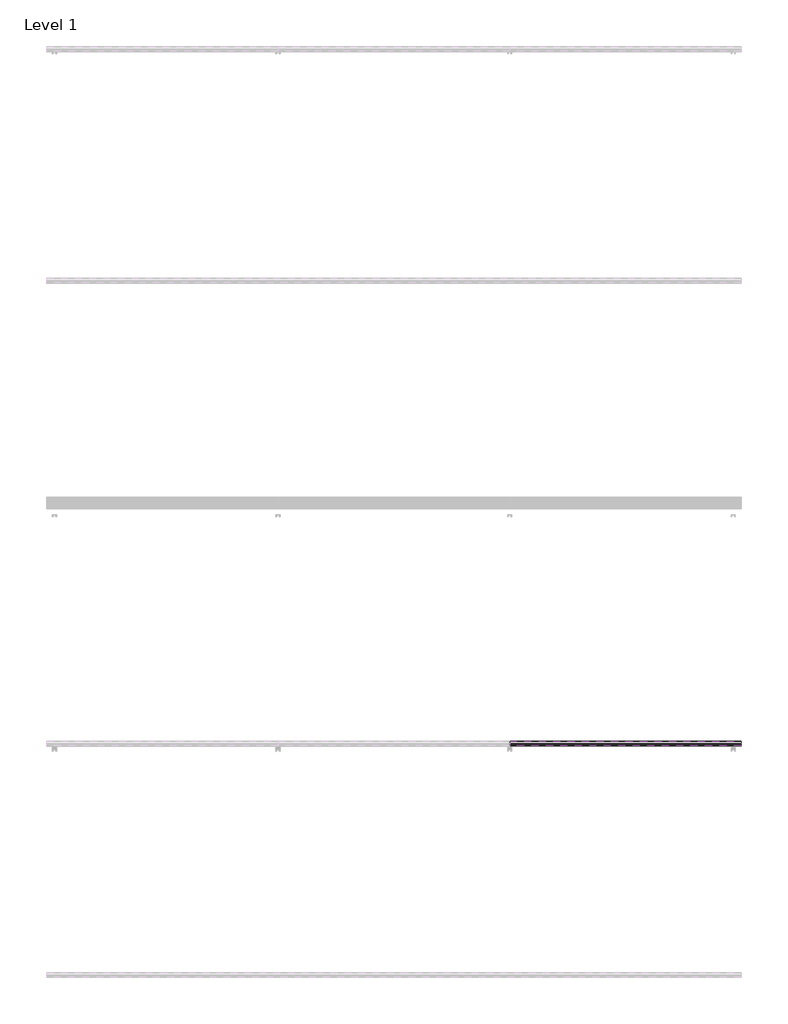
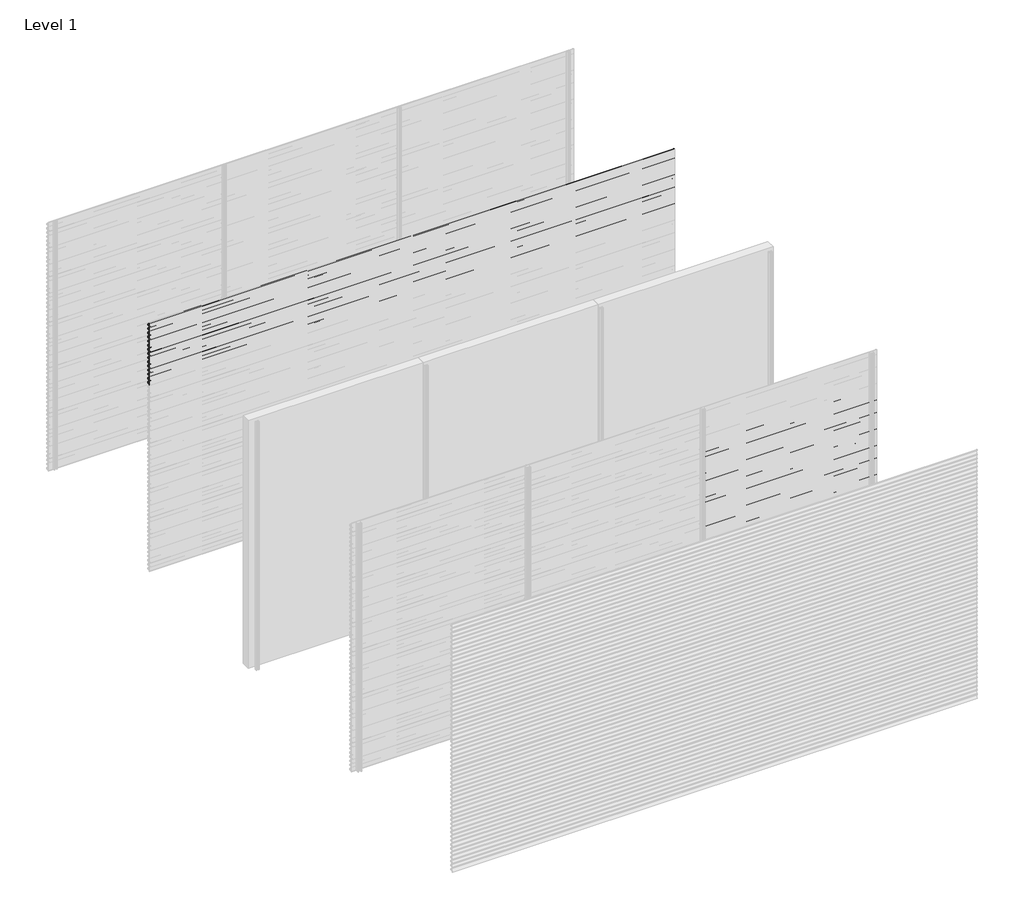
# One storey, part 31 of 38: 66 proxies.
"""IFC4 building model written with IfcOpenShell, lengths in millimetres."""

from ifc_helpers import new_model, si_unit, frame, origin, place, context, project, spatial, polyline, outline, extrude, element, save

model = new_model("IFC4")

# Units and contexts
model_context = context("Model", 3, world=origin())
ifc_project = project(units=[si_unit("LENGTHUNIT", "METRE", prefix="MILLI")], contexts=[model_context])

# Site, building, storey
site = spatial("IfcSite", under=ifc_project)
building = spatial("IfcBuilding", under=site)
storey = spatial("IfcBuildingStorey", under=building, Name="Level 1", Elevation=0.0)

# Proxies
placement = place(None, origin())
element("IfcBuildingElementProxy", 1, Name="Wall Sweeps", at=placement, inside=storey, context=model_context, shape_type="SweptSolid", body=[
    extrude(outline(polyline([(-7996.75, 3000.0), (-7996.75, 2989.19656), (-7974.6057113, 2976.4115489), (-7957.0, 2959.0472005), (-7957.0, 2944.0472005), (-7958.3, 2945.0268207), (-7958.3, 2958.5034593), (-7969.4914725, 2969.541504), (-7994.2797376, 2940.0), (-7995.9767671, 2940.0), (-7970.4200307, 2970.4573323), (-7975.3999793, 2975.3690091), (-7998.0, 2988.4171371), (-7998.0, 3000.0), (-7996.75, 3000.0)])), frame((0.0, 0.0, 0.0), z_axis=(1.0, 0.0, 0.0), x_axis=(0.0, 1.0, 0.0)), (0.0, 0.0, 1.0), 6000.0),
])
element("IfcBuildingElementProxy", 2, Name="Wall Sweeps", at=placement, inside=storey, context=model_context, shape_type="SweptSolid", body=[
    extrude(outline(polyline([(-7996.75, 2950.0), (-7996.75, 2939.19656), (-7974.6057113, 2926.4115489), (-7957.0, 2909.0472005), (-7957.0, 2894.0472005), (-7958.3, 2895.0268207), (-7958.3, 2908.5034593), (-7969.4914725, 2919.541504), (-7994.2797376, 2890.0), (-7995.9767671, 2890.0), (-7970.4200307, 2920.4573323), (-7975.3999793, 2925.3690091), (-7998.0, 2938.4171371), (-7998.0, 2950.0), (-7996.75, 2950.0)])), frame((0.0, 0.0, 0.0), z_axis=(1.0, 0.0, 0.0), x_axis=(0.0, 1.0, 0.0)), (0.0, 0.0, 1.0), 6000.0),
])
element("IfcBuildingElementProxy", 3, Name="Wall Sweeps", at=placement, inside=storey, context=model_context, shape_type="SweptSolid", body=[
    extrude(outline(polyline([(-7996.75, 2900.0), (-7996.75, 2889.19656), (-7974.6057113, 2876.4115489), (-7957.0, 2859.0472005), (-7957.0, 2844.0472005), (-7958.3, 2845.0268207), (-7958.3, 2858.5034593), (-7969.4914725, 2869.541504), (-7994.2797376, 2840.0), (-7995.9767671, 2840.0), (-7970.4200307, 2870.4573323), (-7975.3999793, 2875.3690091), (-7998.0, 2888.4171371), (-7998.0, 2900.0), (-7996.75, 2900.0)])), frame((0.0, 0.0, 0.0), z_axis=(1.0, 0.0, 0.0), x_axis=(0.0, 1.0, 0.0)), (0.0, 0.0, 1.0), 6000.0),
])
element("IfcBuildingElementProxy", 4, Name="Wall Sweeps", at=placement, inside=storey, context=model_context, shape_type="SweptSolid", body=[
    extrude(outline(polyline([(-7996.75, 2850.0), (-7996.75, 2839.19656), (-7974.6057113, 2826.4115489), (-7957.0, 2809.0472005), (-7957.0, 2794.0472005), (-7958.3, 2795.0268207), (-7958.3, 2808.5034593), (-7969.4914725, 2819.541504), (-7994.2797376, 2790.0), (-7995.9767671, 2790.0), (-7970.4200307, 2820.4573323), (-7975.3999793, 2825.3690091), (-7998.0, 2838.4171371), (-7998.0, 2850.0), (-7996.75, 2850.0)])), frame((0.0, 0.0, 0.0), z_axis=(1.0, 0.0, 0.0), x_axis=(0.0, 1.0, 0.0)), (0.0, 0.0, 1.0), 6000.0),
])
element("IfcBuildingElementProxy", 5, Name="Wall Sweeps", at=placement, inside=storey, context=model_context, shape_type="SweptSolid", body=[
    extrude(outline(polyline([(-7996.75, 2800.0), (-7996.75, 2789.19656), (-7974.6057113, 2776.4115489), (-7957.0, 2759.0472005), (-7957.0, 2744.0472005), (-7958.3, 2745.0268207), (-7958.3, 2758.5034593), (-7969.4914725, 2769.541504), (-7994.2797376, 2740.0), (-7995.9767671, 2740.0), (-7970.4200307, 2770.4573323), (-7975.3999793, 2775.3690091), (-7998.0, 2788.4171371), (-7998.0, 2800.0), (-7996.75, 2800.0)])), frame((0.0, 0.0, 0.0), z_axis=(1.0, 0.0, 0.0), x_axis=(0.0, 1.0, 0.0)), (0.0, 0.0, 1.0), 6000.0),
])
element("IfcBuildingElementProxy", 6, Name="Wall Sweeps", at=placement, inside=storey, context=model_context, shape_type="SweptSolid", body=[
    extrude(outline(polyline([(-7996.75, 2750.0), (-7996.75, 2739.19656), (-7974.6057113, 2726.4115489), (-7957.0, 2709.0472005), (-7957.0, 2694.0472005), (-7958.3, 2695.0268207), (-7958.3, 2708.5034593), (-7969.4914725, 2719.541504), (-7994.2797376, 2690.0), (-7995.9767671, 2690.0), (-7970.4200307, 2720.4573323), (-7975.3999793, 2725.3690091), (-7998.0, 2738.4171371), (-7998.0, 2750.0), (-7996.75, 2750.0)])), frame((0.0, 0.0, 0.0), z_axis=(1.0, 0.0, 0.0), x_axis=(0.0, 1.0, 0.0)), (0.0, 0.0, 1.0), 6000.0),
])
element("IfcBuildingElementProxy", 7, Name="Wall Sweeps", at=placement, inside=storey, context=model_context, shape_type="SweptSolid", body=[
    extrude(outline(polyline([(-7996.75, 2700.0), (-7996.75, 2689.19656), (-7974.6057113, 2676.4115489), (-7957.0, 2659.0472005), (-7957.0, 2644.0472005), (-7958.3, 2645.0268207), (-7958.3, 2658.5034593), (-7969.4914725, 2669.541504), (-7994.2797376, 2640.0), (-7995.9767671, 2640.0), (-7970.4200307, 2670.4573323), (-7975.3999793, 2675.3690091), (-7998.0, 2688.4171371), (-7998.0, 2700.0), (-7996.75, 2700.0)])), frame((0.0, 0.0, 0.0), z_axis=(1.0, 0.0, 0.0), x_axis=(0.0, 1.0, 0.0)), (0.0, 0.0, 1.0), 6000.0),
])
element("IfcBuildingElementProxy", 8, Name="Wall Sweeps", at=placement, inside=storey, context=model_context, shape_type="SweptSolid", body=[
    extrude(outline(polyline([(-7996.75, 2650.0), (-7996.75, 2639.19656), (-7974.6057113, 2626.4115489), (-7957.0, 2609.0472005), (-7957.0, 2594.0472005), (-7958.3, 2595.0268207), (-7958.3, 2608.5034593), (-7969.4914725, 2619.541504), (-7994.2797376, 2590.0), (-7995.9767671, 2590.0), (-7970.4200307, 2620.4573323), (-7975.3999793, 2625.3690091), (-7998.0, 2638.4171371), (-7998.0, 2650.0), (-7996.75, 2650.0)])), frame((0.0, 0.0, 0.0), z_axis=(1.0, 0.0, 0.0), x_axis=(0.0, 1.0, 0.0)), (0.0, 0.0, 1.0), 6000.0),
])
element("IfcBuildingElementProxy", 9, Name="Wall Sweeps", at=placement, inside=storey, context=model_context, shape_type="SweptSolid", body=[
    extrude(outline(polyline([(-7996.75, 2600.0), (-7996.75, 2589.19656), (-7974.6057113, 2576.4115489), (-7957.0, 2559.0472005), (-7957.0, 2544.0472005), (-7958.3, 2545.0268207), (-7958.3, 2558.5034593), (-7969.4914725, 2569.541504), (-7994.2797376, 2540.0), (-7995.9767671, 2540.0), (-7970.4200307, 2570.4573323), (-7975.3999793, 2575.3690091), (-7998.0, 2588.4171371), (-7998.0, 2600.0), (-7996.75, 2600.0)])), frame((0.0, 0.0, 0.0), z_axis=(1.0, 0.0, 0.0), x_axis=(0.0, 1.0, 0.0)), (0.0, 0.0, 1.0), 6000.0),
])
element("IfcBuildingElementProxy", 10, Name="Wall Sweeps", at=placement, inside=storey, context=model_context, shape_type="SweptSolid", body=[
    extrude(outline(polyline([(-7996.75, 2550.0), (-7996.75, 2539.19656), (-7974.6057113, 2526.4115489), (-7957.0, 2509.0472005), (-7957.0, 2494.0472005), (-7958.3, 2495.0268207), (-7958.3, 2508.5034593), (-7969.4914725, 2519.541504), (-7994.2797376, 2490.0), (-7995.9767671, 2490.0), (-7970.4200307, 2520.4573323), (-7975.3999793, 2525.3690091), (-7998.0, 2538.4171371), (-7998.0, 2550.0), (-7996.75, 2550.0)])), frame((0.0, 0.0, 0.0), z_axis=(1.0, 0.0, 0.0), x_axis=(0.0, 1.0, 0.0)), (0.0, 0.0, 1.0), 6000.0),
])
element("IfcBuildingElementProxy", 11, Name="Wall Sweeps", at=placement, inside=storey, context=model_context, shape_type="SweptSolid", body=[
    extrude(outline(polyline([(-7996.75, 2500.0), (-7996.75, 2489.19656), (-7974.6057113, 2476.4115489), (-7957.0, 2459.0472005), (-7957.0, 2444.0472005), (-7958.3, 2445.0268207), (-7958.3, 2458.5034593), (-7969.4914725, 2469.541504), (-7994.2797376, 2440.0), (-7995.9767671, 2440.0), (-7970.4200307, 2470.4573323), (-7975.3999793, 2475.3690091), (-7998.0, 2488.4171371), (-7998.0, 2500.0), (-7996.75, 2500.0)])), frame((0.0, 0.0, 0.0), z_axis=(1.0, 0.0, 0.0), x_axis=(0.0, 1.0, 0.0)), (0.0, 0.0, 1.0), 6000.0),
])
element("IfcBuildingElementProxy", 12, Name="Wall Sweeps", at=placement, inside=storey, context=model_context, shape_type="SweptSolid", body=[
    extrude(outline(polyline([(-7996.75, 2450.0), (-7996.75, 2439.19656), (-7974.6057113, 2426.4115489), (-7957.0, 2409.0472005), (-7957.0, 2394.0472005), (-7958.3, 2395.0268207), (-7958.3, 2408.5034593), (-7969.4914725, 2419.541504), (-7994.2797376, 2390.0), (-7995.9767671, 2390.0), (-7970.4200307, 2420.4573323), (-7975.3999793, 2425.3690091), (-7998.0, 2438.4171371), (-7998.0, 2450.0), (-7996.75, 2450.0)])), frame((0.0, 0.0, 0.0), z_axis=(1.0, 0.0, 0.0), x_axis=(0.0, 1.0, 0.0)), (0.0, 0.0, 1.0), 6000.0),
])
element("IfcBuildingElementProxy", 13, Name="Wall Sweeps", at=placement, inside=storey, context=model_context, shape_type="SweptSolid", body=[
    extrude(outline(polyline([(-7996.75, 2400.0), (-7996.75, 2389.19656), (-7974.6057113, 2376.4115489), (-7957.0, 2359.0472005), (-7957.0, 2344.0472005), (-7958.3, 2345.0268207), (-7958.3, 2358.5034593), (-7969.4914725, 2369.541504), (-7994.2797376, 2340.0), (-7995.9767671, 2340.0), (-7970.4200307, 2370.4573323), (-7975.3999793, 2375.3690091), (-7998.0, 2388.4171371), (-7998.0, 2400.0), (-7996.75, 2400.0)])), frame((0.0, 0.0, 0.0), z_axis=(1.0, 0.0, 0.0), x_axis=(0.0, 1.0, 0.0)), (0.0, 0.0, 1.0), 6000.0),
])
element("IfcBuildingElementProxy", 14, Name="Wall Sweeps", at=placement, inside=storey, context=model_context, shape_type="SweptSolid", body=[
    extrude(outline(polyline([(-7996.75, 2350.0), (-7996.75, 2339.19656), (-7974.6057113, 2326.4115489), (-7957.0, 2309.0472005), (-7957.0, 2294.0472005), (-7958.3, 2295.0268207), (-7958.3, 2308.5034593), (-7969.4914725, 2319.541504), (-7994.2797376, 2290.0), (-7995.9767671, 2290.0), (-7970.4200307, 2320.4573323), (-7975.3999793, 2325.3690091), (-7998.0, 2338.4171371), (-7998.0, 2350.0), (-7996.75, 2350.0)])), frame((0.0, 0.0, 0.0), z_axis=(1.0, 0.0, 0.0), x_axis=(0.0, 1.0, 0.0)), (0.0, 0.0, 1.0), 6000.0),
])
element("IfcBuildingElementProxy", 15, Name="Wall Sweeps", at=placement, inside=storey, context=model_context, shape_type="SweptSolid", body=[
    extrude(outline(polyline([(-7996.75, 2300.0), (-7996.75, 2289.19656), (-7974.6057113, 2276.4115489), (-7957.0, 2259.0472005), (-7957.0, 2244.0472005), (-7958.3, 2245.0268207), (-7958.3, 2258.5034593), (-7969.4914725, 2269.541504), (-7994.2797376, 2240.0), (-7995.9767671, 2240.0), (-7970.4200307, 2270.4573323), (-7975.3999793, 2275.3690091), (-7998.0, 2288.4171371), (-7998.0, 2300.0), (-7996.75, 2300.0)])), frame((0.0, 0.0, 0.0), z_axis=(1.0, 0.0, 0.0), x_axis=(0.0, 1.0, 0.0)), (0.0, 0.0, 1.0), 6000.0),
])
element("IfcBuildingElementProxy", 16, Name="Wall Sweeps", at=placement, inside=storey, context=model_context, shape_type="SweptSolid", body=[
    extrude(outline(polyline([(-11996.75, 2550.0), (-11996.75, 2539.19656), (-11974.6057113, 2526.4115489), (-11957.0, 2509.0472005), (-11957.0, 2494.0472005), (-11958.3, 2495.0268207), (-11958.3, 2508.5034593), (-11969.4914725, 2519.541504), (-11994.2797376, 2490.0), (-11995.9767671, 2490.0), (-11970.4200307, 2520.4573323), (-11975.3999793, 2525.3690091), (-11998.0, 2538.4171371), (-11998.0, 2550.0), (-11996.75, 2550.0)])), frame((4000.0, 0.0, 0.0), z_axis=(1.0, 0.0, 0.0), x_axis=(0.0, 1.0, 0.0)), (0.0, 0.0, 1.0), 2000.0),
])
element("IfcBuildingElementProxy", 17, Name="Wall Sweeps", at=placement, inside=storey, context=model_context, shape_type="SweptSolid", body=[
    extrude(outline(polyline([(-11996.75, 2500.0), (-11996.75, 2489.19656), (-11974.6057113, 2476.4115489), (-11957.0, 2459.0472005), (-11957.0, 2444.0472005), (-11958.3, 2445.0268207), (-11958.3, 2458.5034593), (-11969.4914725, 2469.541504), (-11994.2797376, 2440.0), (-11995.9767671, 2440.0), (-11970.4200307, 2470.4573323), (-11975.3999793, 2475.3690091), (-11998.0, 2488.4171371), (-11998.0, 2500.0), (-11996.75, 2500.0)])), frame((4000.0, 0.0, 0.0), z_axis=(1.0, 0.0, 0.0), x_axis=(0.0, 1.0, 0.0)), (0.0, 0.0, 1.0), 2000.0),
])
element("IfcBuildingElementProxy", 18, Name="Wall Sweeps", at=placement, inside=storey, context=model_context, shape_type="SweptSolid", body=[
    extrude(outline(polyline([(-11996.75, 2450.0), (-11996.75, 2439.19656), (-11974.6057113, 2426.4115489), (-11957.0, 2409.0472005), (-11957.0, 2394.0472005), (-11958.3, 2395.0268207), (-11958.3, 2408.5034593), (-11969.4914725, 2419.541504), (-11994.2797376, 2390.0), (-11995.9767671, 2390.0), (-11970.4200307, 2420.4573323), (-11975.3999793, 2425.3690091), (-11998.0, 2438.4171371), (-11998.0, 2450.0), (-11996.75, 2450.0)])), frame((4000.0, 0.0, 0.0), z_axis=(1.0, 0.0, 0.0), x_axis=(0.0, 1.0, 0.0)), (0.0, 0.0, 1.0), 2000.0),
])
element("IfcBuildingElementProxy", 19, Name="Wall Sweeps", at=placement, inside=storey, context=model_context, shape_type="SweptSolid", body=[
    extrude(outline(polyline([(-11996.75, 2400.0), (-11996.75, 2389.19656), (-11974.6057113, 2376.4115489), (-11957.0, 2359.0472005), (-11957.0, 2344.0472005), (-11958.3, 2345.0268207), (-11958.3, 2358.5034593), (-11969.4914725, 2369.541504), (-11994.2797376, 2340.0), (-11995.9767671, 2340.0), (-11970.4200307, 2370.4573323), (-11975.3999793, 2375.3690091), (-11998.0, 2388.4171371), (-11998.0, 2400.0), (-11996.75, 2400.0)])), frame((4000.0, 0.0, 0.0), z_axis=(1.0, 0.0, 0.0), x_axis=(0.0, 1.0, 0.0)), (0.0, 0.0, 1.0), 2000.0),
])
element("IfcBuildingElementProxy", 20, Name="Wall Sweeps", at=placement, inside=storey, context=model_context, shape_type="SweptSolid", body=[
    extrude(outline(polyline([(-11996.75, 2350.0), (-11996.75, 2339.19656), (-11974.6057113, 2326.4115489), (-11957.0, 2309.0472005), (-11957.0, 2294.0472005), (-11958.3, 2295.0268207), (-11958.3, 2308.5034593), (-11969.4914725, 2319.541504), (-11994.2797376, 2290.0), (-11995.9767671, 2290.0), (-11970.4200307, 2320.4573323), (-11975.3999793, 2325.3690091), (-11998.0, 2338.4171371), (-11998.0, 2350.0), (-11996.75, 2350.0)])), frame((4000.0, 0.0, 0.0), z_axis=(1.0, 0.0, 0.0), x_axis=(0.0, 1.0, 0.0)), (0.0, 0.0, 1.0), 2000.0),
])
element("IfcBuildingElementProxy", 21, Name="Wall Sweeps", at=placement, inside=storey, context=model_context, shape_type="SweptSolid", body=[
    extrude(outline(polyline([(-11996.75, 2300.0), (-11996.75, 2289.19656), (-11974.6057113, 2276.4115489), (-11957.0, 2259.0472005), (-11957.0, 2244.0472005), (-11958.3, 2245.0268207), (-11958.3, 2258.5034593), (-11969.4914725, 2269.541504), (-11994.2797376, 2240.0), (-11995.9767671, 2240.0), (-11970.4200307, 2270.4573323), (-11975.3999793, 2275.3690091), (-11998.0, 2288.4171371), (-11998.0, 2300.0), (-11996.75, 2300.0)])), frame((4000.0, 0.0, 0.0), z_axis=(1.0, 0.0, 0.0), x_axis=(0.0, 1.0, 0.0)), (0.0, 0.0, 1.0), 2000.0),
])
element("IfcBuildingElementProxy", 22, Name="Wall Sweeps", at=placement, inside=storey, context=model_context, shape_type="SweptSolid", body=[
    extrude(outline(polyline([(-11996.75, 2250.0), (-11996.75, 2239.19656), (-11974.6057113, 2226.4115489), (-11957.0, 2209.0472005), (-11957.0, 2194.0472005), (-11958.3, 2195.0268207), (-11958.3, 2208.5034593), (-11969.4914725, 2219.541504), (-11994.2797376, 2190.0), (-11995.9767671, 2190.0), (-11970.4200307, 2220.4573323), (-11975.3999793, 2225.3690091), (-11998.0, 2238.4171371), (-11998.0, 2250.0), (-11996.75, 2250.0)])), frame((4000.0, 0.0, 0.0), z_axis=(1.0, 0.0, 0.0), x_axis=(0.0, 1.0, 0.0)), (0.0, 0.0, 1.0), 2000.0),
])
element("IfcBuildingElementProxy", 23, Name="Wall Sweeps", at=placement, inside=storey, context=model_context, shape_type="SweptSolid", body=[
    extrude(outline(polyline([(-11996.75, 2200.0), (-11996.75, 2189.19656), (-11974.6057113, 2176.4115489), (-11957.0, 2159.0472005), (-11957.0, 2144.0472005), (-11958.3, 2145.0268207), (-11958.3, 2158.5034593), (-11969.4914725, 2169.541504), (-11994.2797376, 2140.0), (-11995.9767671, 2140.0), (-11970.4200307, 2170.4573323), (-11975.3999793, 2175.3690091), (-11998.0, 2188.4171371), (-11998.0, 2200.0), (-11996.75, 2200.0)])), frame((4000.0, 0.0, 0.0), z_axis=(1.0, 0.0, 0.0), x_axis=(0.0, 1.0, 0.0)), (0.0, 0.0, 1.0), 2000.0),
])
element("IfcBuildingElementProxy", 24, Name="Wall Sweeps", at=placement, inside=storey, context=model_context, shape_type="SweptSolid", body=[
    extrude(outline(polyline([(-11996.75, 2150.0), (-11996.75, 2139.19656), (-11974.6057113, 2126.4115489), (-11957.0, 2109.0472005), (-11957.0, 2094.0472005), (-11958.3, 2095.0268207), (-11958.3, 2108.5034593), (-11969.4914725, 2119.541504), (-11994.2797376, 2090.0), (-11995.9767671, 2090.0), (-11970.4200307, 2120.4573323), (-11975.3999793, 2125.3690091), (-11998.0, 2138.4171371), (-11998.0, 2150.0), (-11996.75, 2150.0)])), frame((4000.0, 0.0, 0.0), z_axis=(1.0, 0.0, 0.0), x_axis=(0.0, 1.0, 0.0)), (0.0, 0.0, 1.0), 2000.0),
])
element("IfcBuildingElementProxy", 25, Name="Wall Sweeps", at=placement, inside=storey, context=model_context, shape_type="SweptSolid", body=[
    extrude(outline(polyline([(-11996.75, 2100.0), (-11996.75, 2089.19656), (-11974.6057113, 2076.4115489), (-11957.0, 2059.0472005), (-11957.0, 2044.0472005), (-11958.3, 2045.0268207), (-11958.3, 2058.5034593), (-11969.4914725, 2069.541504), (-11994.2797376, 2040.0), (-11995.9767671, 2040.0), (-11970.4200307, 2070.4573323), (-11975.3999793, 2075.3690091), (-11998.0, 2088.4171371), (-11998.0, 2100.0), (-11996.75, 2100.0)])), frame((4000.0, 0.0, 0.0), z_axis=(1.0, 0.0, 0.0), x_axis=(0.0, 1.0, 0.0)), (0.0, 0.0, 1.0), 2000.0),
])
element("IfcBuildingElementProxy", 26, Name="Wall Sweeps", at=placement, inside=storey, context=model_context, shape_type="SweptSolid", body=[
    extrude(outline(polyline([(-11996.75, 2050.0), (-11996.75, 2039.19656), (-11974.6057113, 2026.4115489), (-11957.0, 2009.0472005), (-11957.0, 1994.0472005), (-11958.3, 1995.0268207), (-11958.3, 2008.5034593), (-11969.4914725, 2019.541504), (-11994.2797376, 1990.0), (-11995.9767671, 1990.0), (-11970.4200307, 2020.4573323), (-11975.3999793, 2025.3690091), (-11998.0, 2038.4171371), (-11998.0, 2050.0), (-11996.75, 2050.0)])), frame((4000.0, 0.0, 0.0), z_axis=(1.0, 0.0, 0.0), x_axis=(0.0, 1.0, 0.0)), (0.0, 0.0, 1.0), 2000.0),
])
element("IfcBuildingElementProxy", 27, Name="Wall Sweeps", at=placement, inside=storey, context=model_context, shape_type="SweptSolid", body=[
    extrude(outline(polyline([(-11996.75, 2000.0), (-11996.75, 1989.19656), (-11974.6057113, 1976.4115489), (-11957.0, 1959.0472005), (-11957.0, 1944.0472005), (-11958.3, 1945.0268207), (-11958.3, 1958.5034593), (-11969.4914725, 1969.541504), (-11994.2797376, 1940.0), (-11995.9767671, 1940.0), (-11970.4200307, 1970.4573323), (-11975.3999793, 1975.3690091), (-11998.0, 1988.4171371), (-11998.0, 2000.0), (-11996.75, 2000.0)])), frame((4000.0, 0.0, 0.0), z_axis=(1.0, 0.0, 0.0), x_axis=(0.0, 1.0, 0.0)), (0.0, 0.0, 1.0), 2000.0),
])
element("IfcBuildingElementProxy", 28, Name="Wall Sweeps", at=placement, inside=storey, context=model_context, shape_type="SweptSolid", body=[
    extrude(outline(polyline([(-11996.75, 1950.0), (-11996.75, 1939.19656), (-11974.6057113, 1926.4115489), (-11957.0, 1909.0472005), (-11957.0, 1894.0472005), (-11958.3, 1895.0268207), (-11958.3, 1908.5034593), (-11969.4914725, 1919.541504), (-11994.2797376, 1890.0), (-11995.9767671, 1890.0), (-11970.4200307, 1920.4573323), (-11975.3999793, 1925.3690091), (-11998.0, 1938.4171371), (-11998.0, 1950.0), (-11996.75, 1950.0)])), frame((4000.0, 0.0, 0.0), z_axis=(1.0, 0.0, 0.0), x_axis=(0.0, 1.0, 0.0)), (0.0, 0.0, 1.0), 2000.0),
])
element("IfcBuildingElementProxy", 29, Name="Wall Sweeps", at=placement, inside=storey, context=model_context, shape_type="SweptSolid", body=[
    extrude(outline(polyline([(-11996.75, 1900.0), (-11996.75, 1889.19656), (-11974.6057113, 1876.4115489), (-11957.0, 1859.0472005), (-11957.0, 1844.0472005), (-11958.3, 1845.0268207), (-11958.3, 1858.5034593), (-11969.4914725, 1869.541504), (-11994.2797376, 1840.0), (-11995.9767671, 1840.0), (-11970.4200307, 1870.4573323), (-11975.3999793, 1875.3690091), (-11998.0, 1888.4171371), (-11998.0, 1900.0), (-11996.75, 1900.0)])), frame((4000.0, 0.0, 0.0), z_axis=(1.0, 0.0, 0.0), x_axis=(0.0, 1.0, 0.0)), (0.0, 0.0, 1.0), 2000.0),
])
element("IfcBuildingElementProxy", 30, Name="Wall Sweeps", at=placement, inside=storey, context=model_context, shape_type="SweptSolid", body=[
    extrude(outline(polyline([(-11996.75, 1850.0), (-11996.75, 1839.19656), (-11974.6057113, 1826.4115489), (-11957.0, 1809.0472005), (-11957.0, 1794.0472005), (-11958.3, 1795.0268207), (-11958.3, 1808.5034593), (-11969.4914725, 1819.541504), (-11994.2797376, 1790.0), (-11995.9767671, 1790.0), (-11970.4200307, 1820.4573323), (-11975.3999793, 1825.3690091), (-11998.0, 1838.4171371), (-11998.0, 1850.0), (-11996.75, 1850.0)])), frame((4000.0, 0.0, 0.0), z_axis=(1.0, 0.0, 0.0), x_axis=(0.0, 1.0, 0.0)), (0.0, 0.0, 1.0), 2000.0),
])
element("IfcBuildingElementProxy", 31, Name="Wall Sweeps", at=placement, inside=storey, context=model_context, shape_type="SweptSolid", body=[
    extrude(outline(polyline([(-11996.75, 1800.0), (-11996.75, 1789.19656), (-11974.6057113, 1776.4115489), (-11957.0, 1759.0472005), (-11957.0, 1744.0472005), (-11958.3, 1745.0268207), (-11958.3, 1758.5034593), (-11969.4914725, 1769.541504), (-11994.2797376, 1740.0), (-11995.9767671, 1740.0), (-11970.4200307, 1770.4573323), (-11975.3999793, 1775.3690091), (-11998.0, 1788.4171371), (-11998.0, 1800.0), (-11996.75, 1800.0)])), frame((4000.0, 0.0, 0.0), z_axis=(1.0, 0.0, 0.0), x_axis=(0.0, 1.0, 0.0)), (0.0, 0.0, 1.0), 2000.0),
])
element("IfcBuildingElementProxy", 32, Name="Wall Sweeps", at=placement, inside=storey, context=model_context, shape_type="SweptSolid", body=[
    extrude(outline(polyline([(-11996.75, 1750.0), (-11996.75, 1739.19656), (-11974.6057113, 1726.4115489), (-11957.0, 1709.0472005), (-11957.0, 1694.0472005), (-11958.3, 1695.0268207), (-11958.3, 1708.5034593), (-11969.4914725, 1719.541504), (-11994.2797376, 1690.0), (-11995.9767671, 1690.0), (-11970.4200307, 1720.4573323), (-11975.3999793, 1725.3690091), (-11998.0, 1738.4171371), (-11998.0, 1750.0), (-11996.75, 1750.0)])), frame((4000.0, 0.0, 0.0), z_axis=(1.0, 0.0, 0.0), x_axis=(0.0, 1.0, 0.0)), (0.0, 0.0, 1.0), 2000.0),
])
element("IfcBuildingElementProxy", 33, Name="Wall Sweeps", at=placement, inside=storey, context=model_context, shape_type="SweptSolid", body=[
    extrude(outline(polyline([(-11996.75, 1700.0), (-11996.75, 1689.19656), (-11974.6057113, 1676.4115489), (-11957.0, 1659.0472005), (-11957.0, 1644.0472005), (-11958.3, 1645.0268207), (-11958.3, 1658.5034593), (-11969.4914725, 1669.541504), (-11994.2797376, 1640.0), (-11995.9767671, 1640.0), (-11970.4200307, 1670.4573323), (-11975.3999793, 1675.3690091), (-11998.0, 1688.4171371), (-11998.0, 1700.0), (-11996.75, 1700.0)])), frame((4000.0, 0.0, 0.0), z_axis=(1.0, 0.0, 0.0), x_axis=(0.0, 1.0, 0.0)), (0.0, 0.0, 1.0), 2000.0),
])
element("IfcBuildingElementProxy", 34, Name="Wall Sweeps", at=placement, inside=storey, context=model_context, shape_type="SweptSolid", body=[
    extrude(outline(polyline([(-11996.75, 1650.0), (-11996.75, 1639.19656), (-11974.6057113, 1626.4115489), (-11957.0, 1609.0472005), (-11957.0, 1594.0472005), (-11958.3, 1595.0268207), (-11958.3, 1608.5034593), (-11969.4914725, 1619.541504), (-11994.2797376, 1590.0), (-11995.9767671, 1590.0), (-11970.4200307, 1620.4573323), (-11975.3999793, 1625.3690091), (-11998.0, 1638.4171371), (-11998.0, 1650.0), (-11996.75, 1650.0)])), frame((4000.0, 0.0, 0.0), z_axis=(1.0, 0.0, 0.0), x_axis=(0.0, 1.0, 0.0)), (0.0, 0.0, 1.0), 2000.0),
])
element("IfcBuildingElementProxy", 35, Name="Wall Sweeps", at=placement, inside=storey, context=model_context, shape_type="SweptSolid", body=[
    extrude(outline(polyline([(-11996.75, 1600.0), (-11996.75, 1589.19656), (-11974.6057113, 1576.4115489), (-11957.0, 1559.0472005), (-11957.0, 1544.0472005), (-11958.3, 1545.0268207), (-11958.3, 1558.5034593), (-11969.4914725, 1569.541504), (-11994.2797376, 1540.0), (-11995.9767671, 1540.0), (-11970.4200307, 1570.4573323), (-11975.3999793, 1575.3690091), (-11998.0, 1588.4171371), (-11998.0, 1600.0), (-11996.75, 1600.0)])), frame((4000.0, 0.0, 0.0), z_axis=(1.0, 0.0, 0.0), x_axis=(0.0, 1.0, 0.0)), (0.0, 0.0, 1.0), 2000.0),
])
element("IfcBuildingElementProxy", 36, Name="Wall Sweeps", at=placement, inside=storey, context=model_context, shape_type="SweptSolid", body=[
    extrude(outline(polyline([(-11996.75, 1550.0), (-11996.75, 1539.19656), (-11974.6057113, 1526.4115489), (-11957.0, 1509.0472005), (-11957.0, 1494.0472005), (-11958.3, 1495.0268207), (-11958.3, 1508.5034593), (-11969.4914725, 1519.541504), (-11994.2797376, 1490.0), (-11995.9767671, 1490.0), (-11970.4200307, 1520.4573323), (-11975.3999793, 1525.3690091), (-11998.0, 1538.4171371), (-11998.0, 1550.0), (-11996.75, 1550.0)])), frame((4000.0, 0.0, 0.0), z_axis=(1.0, 0.0, 0.0), x_axis=(0.0, 1.0, 0.0)), (0.0, 0.0, 1.0), 2000.0),
])
element("IfcBuildingElementProxy", 37, Name="Wall Sweeps", at=placement, inside=storey, context=model_context, shape_type="SweptSolid", body=[
    extrude(outline(polyline([(-11996.75, 1500.0), (-11996.75, 1489.19656), (-11974.6057113, 1476.4115489), (-11957.0, 1459.0472005), (-11957.0, 1444.0472005), (-11958.3, 1445.0268207), (-11958.3, 1458.5034593), (-11969.4914725, 1469.541504), (-11994.2797376, 1440.0), (-11995.9767671, 1440.0), (-11970.4200307, 1470.4573323), (-11975.3999793, 1475.3690091), (-11998.0, 1488.4171371), (-11998.0, 1500.0), (-11996.75, 1500.0)])), frame((4000.0, 0.0, 0.0), z_axis=(1.0, 0.0, 0.0), x_axis=(0.0, 1.0, 0.0)), (0.0, 0.0, 1.0), 2000.0),
])
element("IfcBuildingElementProxy", 38, Name="Wall Sweeps", at=placement, inside=storey, context=model_context, shape_type="SweptSolid", body=[
    extrude(outline(polyline([(-11996.75, 1450.0), (-11996.75, 1439.19656), (-11974.6057113, 1426.4115489), (-11957.0, 1409.0472005), (-11957.0, 1394.0472005), (-11958.3, 1395.0268207), (-11958.3, 1408.5034593), (-11969.4914725, 1419.541504), (-11994.2797376, 1390.0), (-11995.9767671, 1390.0), (-11970.4200307, 1420.4573323), (-11975.3999793, 1425.3690091), (-11998.0, 1438.4171371), (-11998.0, 1450.0), (-11996.75, 1450.0)])), frame((4000.0, 0.0, 0.0), z_axis=(1.0, 0.0, 0.0), x_axis=(0.0, 1.0, 0.0)), (0.0, 0.0, 1.0), 2000.0),
])
element("IfcBuildingElementProxy", 39, Name="Wall Sweeps", at=placement, inside=storey, context=model_context, shape_type="SweptSolid", body=[
    extrude(outline(polyline([(-11996.75, 1400.0), (-11996.75, 1389.19656), (-11974.6057113, 1376.4115489), (-11957.0, 1359.0472005), (-11957.0, 1344.0472005), (-11958.3, 1345.0268207), (-11958.3, 1358.5034593), (-11969.4914725, 1369.541504), (-11994.2797376, 1340.0), (-11995.9767671, 1340.0), (-11970.4200307, 1370.4573323), (-11975.3999793, 1375.3690091), (-11998.0, 1388.4171371), (-11998.0, 1400.0), (-11996.75, 1400.0)])), frame((4000.0, 0.0, 0.0), z_axis=(1.0, 0.0, 0.0), x_axis=(0.0, 1.0, 0.0)), (0.0, 0.0, 1.0), 2000.0),
])
element("IfcBuildingElementProxy", 40, Name="Wall Sweeps", at=placement, inside=storey, context=model_context, shape_type="SweptSolid", body=[
    extrude(outline(polyline([(-11996.75, 1350.0), (-11996.75, 1339.19656), (-11974.6057113, 1326.4115489), (-11957.0, 1309.0472005), (-11957.0, 1294.0472005), (-11958.3, 1295.0268207), (-11958.3, 1308.5034593), (-11969.4914725, 1319.541504), (-11994.2797376, 1290.0), (-11995.9767671, 1290.0), (-11970.4200307, 1320.4573323), (-11975.3999793, 1325.3690091), (-11998.0, 1338.4171371), (-11998.0, 1350.0), (-11996.75, 1350.0)])), frame((4000.0, 0.0, 0.0), z_axis=(1.0, 0.0, 0.0), x_axis=(0.0, 1.0, 0.0)), (0.0, 0.0, 1.0), 2000.0),
])
element("IfcBuildingElementProxy", 41, Name="Wall Sweeps", at=placement, inside=storey, context=model_context, shape_type="SweptSolid", body=[
    extrude(outline(polyline([(-11996.75, 1300.0), (-11996.75, 1289.19656), (-11974.6057113, 1276.4115489), (-11957.0, 1259.0472005), (-11957.0, 1244.0472005), (-11958.3, 1245.0268207), (-11958.3, 1258.5034593), (-11969.4914725, 1269.541504), (-11994.2797376, 1240.0), (-11995.9767671, 1240.0), (-11970.4200307, 1270.4573323), (-11975.3999793, 1275.3690091), (-11998.0, 1288.4171371), (-11998.0, 1300.0), (-11996.75, 1300.0)])), frame((4000.0, 0.0, 0.0), z_axis=(1.0, 0.0, 0.0), x_axis=(0.0, 1.0, 0.0)), (0.0, 0.0, 1.0), 2000.0),
])
element("IfcBuildingElementProxy", 42, Name="Wall Sweeps", at=placement, inside=storey, context=model_context, shape_type="SweptSolid", body=[
    extrude(outline(polyline([(-11996.75, 1250.0), (-11996.75, 1239.19656), (-11974.6057113, 1226.4115489), (-11957.0, 1209.0472005), (-11957.0, 1194.0472005), (-11958.3, 1195.0268207), (-11958.3, 1208.5034593), (-11969.4914725, 1219.541504), (-11994.2797376, 1190.0), (-11995.9767671, 1190.0), (-11970.4200307, 1220.4573323), (-11975.3999793, 1225.3690091), (-11998.0, 1238.4171371), (-11998.0, 1250.0), (-11996.75, 1250.0)])), frame((4000.0, 0.0, 0.0), z_axis=(1.0, 0.0, 0.0), x_axis=(0.0, 1.0, 0.0)), (0.0, 0.0, 1.0), 2000.0),
])
element("IfcBuildingElementProxy", 43, Name="Wall Sweeps", at=placement, inside=storey, context=model_context, shape_type="SweptSolid", body=[
    extrude(outline(polyline([(-11996.75, 1200.0), (-11996.75, 1189.19656), (-11974.6057113, 1176.4115489), (-11957.0, 1159.0472005), (-11957.0, 1144.0472005), (-11958.3, 1145.0268207), (-11958.3, 1158.5034593), (-11969.4914725, 1169.541504), (-11994.2797376, 1140.0), (-11995.9767671, 1140.0), (-11970.4200307, 1170.4573323), (-11975.3999793, 1175.3690091), (-11998.0, 1188.4171371), (-11998.0, 1200.0), (-11996.75, 1200.0)])), frame((4000.0, 0.0, 0.0), z_axis=(1.0, 0.0, 0.0), x_axis=(0.0, 1.0, 0.0)), (0.0, 0.0, 1.0), 2000.0),
])
element("IfcBuildingElementProxy", 44, Name="Wall Sweeps", at=placement, inside=storey, context=model_context, shape_type="SweptSolid", body=[
    extrude(outline(polyline([(-11996.75, 1150.0), (-11996.75, 1139.19656), (-11974.6057113, 1126.4115489), (-11957.0, 1109.0472005), (-11957.0, 1094.0472005), (-11958.3, 1095.0268207), (-11958.3, 1108.5034593), (-11969.4914725, 1119.541504), (-11994.2797376, 1090.0), (-11995.9767671, 1090.0), (-11970.4200307, 1120.4573323), (-11975.3999793, 1125.3690091), (-11998.0, 1138.4171371), (-11998.0, 1150.0), (-11996.75, 1150.0)])), frame((4000.0, 0.0, 0.0), z_axis=(1.0, 0.0, 0.0), x_axis=(0.0, 1.0, 0.0)), (0.0, 0.0, 1.0), 2000.0),
])
element("IfcBuildingElementProxy", 45, Name="Wall Sweeps", at=placement, inside=storey, context=model_context, shape_type="SweptSolid", body=[
    extrude(outline(polyline([(-11996.75, 1100.0), (-11996.75, 1089.19656), (-11974.6057113, 1076.4115489), (-11957.0, 1059.0472005), (-11957.0, 1044.0472005), (-11958.3, 1045.0268207), (-11958.3, 1058.5034593), (-11969.4914725, 1069.541504), (-11994.2797376, 1040.0), (-11995.9767671, 1040.0), (-11970.4200307, 1070.4573323), (-11975.3999793, 1075.3690091), (-11998.0, 1088.4171371), (-11998.0, 1100.0), (-11996.75, 1100.0)])), frame((4000.0, 0.0, 0.0), z_axis=(1.0, 0.0, 0.0), x_axis=(0.0, 1.0, 0.0)), (0.0, 0.0, 1.0), 2000.0),
])
element("IfcBuildingElementProxy", 46, Name="Wall Sweeps", at=placement, inside=storey, context=model_context, shape_type="SweptSolid", body=[
    extrude(outline(polyline([(-11996.75, 1050.0), (-11996.75, 1039.19656), (-11974.6057113, 1026.4115489), (-11957.0, 1009.0472005), (-11957.0, 994.0472005), (-11958.3, 995.0268207), (-11958.3, 1008.5034593), (-11969.4914725, 1019.541504), (-11994.2797376, 990.0), (-11995.9767671, 990.0), (-11970.4200307, 1020.4573323), (-11975.3999793, 1025.3690091), (-11998.0, 1038.4171371), (-11998.0, 1050.0), (-11996.75, 1050.0)])), frame((4000.0, 0.0, 0.0), z_axis=(1.0, 0.0, 0.0), x_axis=(0.0, 1.0, 0.0)), (0.0, 0.0, 1.0), 2000.0),
])
element("IfcBuildingElementProxy", 47, Name="Wall Sweeps", at=placement, inside=storey, context=model_context, shape_type="SweptSolid", body=[
    extrude(outline(polyline([(-11996.75, 1000.0), (-11996.75, 989.19656), (-11974.6057113, 976.4115489), (-11957.0, 959.0472005), (-11957.0, 944.0472005), (-11958.3, 945.0268207), (-11958.3, 958.5034593), (-11969.4914725, 969.541504), (-11994.2797376, 940.0), (-11995.9767671, 940.0), (-11970.4200307, 970.4573323), (-11975.3999793, 975.3690091), (-11998.0, 988.4171371), (-11998.0, 1000.0), (-11996.75, 1000.0)])), frame((4000.0, 0.0, 0.0), z_axis=(1.0, 0.0, 0.0), x_axis=(0.0, 1.0, 0.0)), (0.0, 0.0, 1.0), 2000.0),
])
element("IfcBuildingElementProxy", 48, Name="Wall Sweeps", at=placement, inside=storey, context=model_context, shape_type="SweptSolid", body=[
    extrude(outline(polyline([(-11996.75, 950.0), (-11996.75, 939.19656), (-11974.6057113, 926.4115489), (-11957.0, 909.0472005), (-11957.0, 894.0472005), (-11958.3, 895.0268207), (-11958.3, 908.5034593), (-11969.4914725, 919.541504), (-11994.2797376, 890.0), (-11995.9767671, 890.0), (-11970.4200307, 920.4573323), (-11975.3999793, 925.3690091), (-11998.0, 938.4171371), (-11998.0, 950.0), (-11996.75, 950.0)])), frame((4000.0, 0.0, 0.0), z_axis=(1.0, 0.0, 0.0), x_axis=(0.0, 1.0, 0.0)), (0.0, 0.0, 1.0), 2000.0),
])
element("IfcBuildingElementProxy", 49, Name="Wall Sweeps", at=placement, inside=storey, context=model_context, shape_type="SweptSolid", body=[
    extrude(outline(polyline([(-11996.75, 900.0), (-11996.75, 889.19656), (-11974.6057113, 876.4115489), (-11957.0, 859.0472005), (-11957.0, 844.0472005), (-11958.3, 845.0268207), (-11958.3, 858.5034593), (-11969.4914725, 869.541504), (-11994.2797376, 840.0), (-11995.9767671, 840.0), (-11970.4200307, 870.4573323), (-11975.3999793, 875.3690091), (-11998.0, 888.4171371), (-11998.0, 900.0), (-11996.75, 900.0)])), frame((4000.0, 0.0, 0.0), z_axis=(1.0, 0.0, 0.0), x_axis=(0.0, 1.0, 0.0)), (0.0, 0.0, 1.0), 2000.0),
])
element("IfcBuildingElementProxy", 50, Name="Wall Sweeps", at=placement, inside=storey, context=model_context, shape_type="SweptSolid", body=[
    extrude(outline(polyline([(-11996.75, 850.0), (-11996.75, 839.19656), (-11974.6057113, 826.4115489), (-11957.0, 809.0472005), (-11957.0, 794.0472005), (-11958.3, 795.0268207), (-11958.3, 808.5034593), (-11969.4914725, 819.541504), (-11994.2797376, 790.0), (-11995.9767671, 790.0), (-11970.4200307, 820.4573323), (-11975.3999793, 825.3690091), (-11998.0, 838.4171371), (-11998.0, 850.0), (-11996.75, 850.0)])), frame((4000.0, 0.0, 0.0), z_axis=(1.0, 0.0, 0.0), x_axis=(0.0, 1.0, 0.0)), (0.0, 0.0, 1.0), 2000.0),
])
element("IfcBuildingElementProxy", 51, Name="Wall Sweeps", at=placement, inside=storey, context=model_context, shape_type="SweptSolid", body=[
    extrude(outline(polyline([(-11996.75, 800.0), (-11996.75, 789.19656), (-11974.6057113, 776.4115489), (-11957.0, 759.0472005), (-11957.0, 744.0472005), (-11958.3, 745.0268207), (-11958.3, 758.5034593), (-11969.4914725, 769.541504), (-11994.2797376, 740.0), (-11995.9767671, 740.0), (-11970.4200307, 770.4573323), (-11975.3999793, 775.3690091), (-11998.0, 788.4171371), (-11998.0, 800.0), (-11996.75, 800.0)])), frame((4000.0, 0.0, 0.0), z_axis=(1.0, 0.0, 0.0), x_axis=(0.0, 1.0, 0.0)), (0.0, 0.0, 1.0), 2000.0),
])
element("IfcBuildingElementProxy", 52, Name="Wall Sweeps", at=placement, inside=storey, context=model_context, shape_type="SweptSolid", body=[
    extrude(outline(polyline([(-11996.75, 750.0), (-11996.75, 739.19656), (-11974.6057113, 726.4115489), (-11957.0, 709.0472005), (-11957.0, 694.0472005), (-11958.3, 695.0268207), (-11958.3, 708.5034593), (-11969.4914725, 719.541504), (-11994.2797376, 690.0), (-11995.9767671, 690.0), (-11970.4200307, 720.4573323), (-11975.3999793, 725.3690091), (-11998.0, 738.4171371), (-11998.0, 750.0), (-11996.75, 750.0)])), frame((4000.0, 0.0, 0.0), z_axis=(1.0, 0.0, 0.0), x_axis=(0.0, 1.0, 0.0)), (0.0, 0.0, 1.0), 2000.0),
])
element("IfcBuildingElementProxy", 53, Name="Wall Sweeps", at=placement, inside=storey, context=model_context, shape_type="SweptSolid", body=[
    extrude(outline(polyline([(-11996.75, 700.0), (-11996.75, 689.19656), (-11974.6057113, 676.4115489), (-11957.0, 659.0472005), (-11957.0, 644.0472005), (-11958.3, 645.0268207), (-11958.3, 658.5034593), (-11969.4914725, 669.541504), (-11994.2797376, 640.0), (-11995.9767671, 640.0), (-11970.4200307, 670.4573323), (-11975.3999793, 675.3690091), (-11998.0, 688.4171371), (-11998.0, 700.0), (-11996.75, 700.0)])), frame((4000.0, 0.0, 0.0), z_axis=(1.0, 0.0, 0.0), x_axis=(0.0, 1.0, 0.0)), (0.0, 0.0, 1.0), 2000.0),
])
element("IfcBuildingElementProxy", 54, Name="Wall Sweeps", at=placement, inside=storey, context=model_context, shape_type="SweptSolid", body=[
    extrude(outline(polyline([(-11996.75, 650.0), (-11996.75, 639.19656), (-11974.6057113, 626.4115489), (-11957.0, 609.0472005), (-11957.0, 594.0472005), (-11958.3, 595.0268207), (-11958.3, 608.5034593), (-11969.4914725, 619.541504), (-11994.2797376, 590.0), (-11995.9767671, 590.0), (-11970.4200307, 620.4573323), (-11975.3999793, 625.3690091), (-11998.0, 638.4171371), (-11998.0, 650.0), (-11996.75, 650.0)])), frame((4000.0, 0.0, 0.0), z_axis=(1.0, 0.0, 0.0), x_axis=(0.0, 1.0, 0.0)), (0.0, 0.0, 1.0), 2000.0),
])
element("IfcBuildingElementProxy", 55, Name="Wall Sweeps", at=placement, inside=storey, context=model_context, shape_type="SweptSolid", body=[
    extrude(outline(polyline([(-11996.75, 600.0), (-11996.75, 589.19656), (-11974.6057113, 576.4115489), (-11957.0, 559.0472005), (-11957.0, 544.0472005), (-11958.3, 545.0268207), (-11958.3, 558.5034593), (-11969.4914725, 569.541504), (-11994.2797376, 540.0), (-11995.9767671, 540.0), (-11970.4200307, 570.4573323), (-11975.3999793, 575.3690091), (-11998.0, 588.4171371), (-11998.0, 600.0), (-11996.75, 600.0)])), frame((4000.0, 0.0, 0.0), z_axis=(1.0, 0.0, 0.0), x_axis=(0.0, 1.0, 0.0)), (0.0, 0.0, 1.0), 2000.0),
])
element("IfcBuildingElementProxy", 56, Name="Wall Sweeps", at=placement, inside=storey, context=model_context, shape_type="SweptSolid", body=[
    extrude(outline(polyline([(-11996.75, 550.0), (-11996.75, 539.19656), (-11974.6057113, 526.4115489), (-11957.0, 509.0472005), (-11957.0, 494.0472005), (-11958.3, 495.0268207), (-11958.3, 508.5034593), (-11969.4914725, 519.541504), (-11994.2797376, 490.0), (-11995.9767671, 490.0), (-11970.4200307, 520.4573323), (-11975.3999793, 525.3690091), (-11998.0, 538.4171371), (-11998.0, 550.0), (-11996.75, 550.0)])), frame((4000.0, 0.0, 0.0), z_axis=(1.0, 0.0, 0.0), x_axis=(0.0, 1.0, 0.0)), (0.0, 0.0, 1.0), 2000.0),
])
element("IfcBuildingElementProxy", 57, Name="Wall Sweeps", at=placement, inside=storey, context=model_context, shape_type="SweptSolid", body=[
    extrude(outline(polyline([(-11996.75, 500.0), (-11996.75, 489.19656), (-11974.6057113, 476.4115489), (-11957.0, 459.0472005), (-11957.0, 444.0472005), (-11958.3, 445.0268207), (-11958.3, 458.5034593), (-11969.4914725, 469.541504), (-11994.2797376, 440.0), (-11995.9767671, 440.0), (-11970.4200307, 470.4573323), (-11975.3999793, 475.3690091), (-11998.0, 488.4171371), (-11998.0, 500.0), (-11996.75, 500.0)])), frame((4000.0, 0.0, 0.0), z_axis=(1.0, 0.0, 0.0), x_axis=(0.0, 1.0, 0.0)), (0.0, 0.0, 1.0), 2000.0),
])
element("IfcBuildingElementProxy", 58, Name="Wall Sweeps", at=placement, inside=storey, context=model_context, shape_type="SweptSolid", body=[
    extrude(outline(polyline([(-11996.75, 450.0), (-11996.75, 439.19656), (-11974.6057113, 426.4115489), (-11957.0, 409.0472005), (-11957.0, 394.0472005), (-11958.3, 395.0268207), (-11958.3, 408.5034593), (-11969.4914725, 419.541504), (-11994.2797376, 390.0), (-11995.9767671, 390.0), (-11970.4200307, 420.4573323), (-11975.3999793, 425.3690091), (-11998.0, 438.4171371), (-11998.0, 450.0), (-11996.75, 450.0)])), frame((4000.0, 0.0, 0.0), z_axis=(1.0, 0.0, 0.0), x_axis=(0.0, 1.0, 0.0)), (0.0, 0.0, 1.0), 2000.0),
])
element("IfcBuildingElementProxy", 59, Name="Wall Sweeps", at=placement, inside=storey, context=model_context, shape_type="SweptSolid", body=[
    extrude(outline(polyline([(-11996.75, 400.0), (-11996.75, 389.19656), (-11974.6057113, 376.4115489), (-11957.0, 359.0472005), (-11957.0, 344.0472005), (-11958.3, 345.0268207), (-11958.3, 358.5034593), (-11969.4914725, 369.541504), (-11994.2797376, 340.0), (-11995.9767671, 340.0), (-11970.4200307, 370.4573323), (-11975.3999793, 375.3690091), (-11998.0, 388.4171371), (-11998.0, 400.0), (-11996.75, 400.0)])), frame((4000.0, 0.0, 0.0), z_axis=(1.0, 0.0, 0.0), x_axis=(0.0, 1.0, 0.0)), (0.0, 0.0, 1.0), 2000.0),
])
element("IfcBuildingElementProxy", 60, Name="Wall Sweeps", at=placement, inside=storey, context=model_context, shape_type="SweptSolid", body=[
    extrude(outline(polyline([(-11996.75, 350.0), (-11996.75, 339.19656), (-11974.6057113, 326.4115489), (-11957.0, 309.0472005), (-11957.0, 294.0472005), (-11958.3, 295.0268207), (-11958.3, 308.5034593), (-11969.4914725, 319.541504), (-11994.2797376, 290.0), (-11995.9767671, 290.0), (-11970.4200307, 320.4573323), (-11975.3999793, 325.3690091), (-11998.0, 338.4171371), (-11998.0, 350.0), (-11996.75, 350.0)])), frame((4000.0, 0.0, 0.0), z_axis=(1.0, 0.0, 0.0), x_axis=(0.0, 1.0, 0.0)), (0.0, 0.0, 1.0), 2000.0),
])
element("IfcBuildingElementProxy", 61, Name="Wall Sweeps", at=placement, inside=storey, context=model_context, shape_type="SweptSolid", body=[
    extrude(outline(polyline([(-11996.75, 300.0), (-11996.75, 289.19656), (-11974.6057113, 276.4115489), (-11957.0, 259.0472005), (-11957.0, 244.0472005), (-11958.3, 245.0268207), (-11958.3, 258.5034593), (-11969.4914725, 269.541504), (-11994.2797376, 240.0), (-11995.9767671, 240.0), (-11970.4200307, 270.4573323), (-11975.3999793, 275.3690091), (-11998.0, 288.4171371), (-11998.0, 300.0), (-11996.75, 300.0)])), frame((4000.0, 0.0, 0.0), z_axis=(1.0, 0.0, 0.0), x_axis=(0.0, 1.0, 0.0)), (0.0, 0.0, 1.0), 2000.0),
])
element("IfcBuildingElementProxy", 62, Name="Wall Sweeps", at=placement, inside=storey, context=model_context, shape_type="SweptSolid", body=[
    extrude(outline(polyline([(-11996.75, 250.0), (-11996.75, 239.19656), (-11974.6057113, 226.4115489), (-11957.0, 209.0472005), (-11957.0, 194.0472005), (-11958.3, 195.0268207), (-11958.3, 208.5034593), (-11969.4914725, 219.541504), (-11994.2797376, 190.0), (-11995.9767671, 190.0), (-11970.4200307, 220.4573323), (-11975.3999793, 225.3690091), (-11998.0, 238.4171371), (-11998.0, 250.0), (-11996.75, 250.0)])), frame((4000.0, 0.0, 0.0), z_axis=(1.0, 0.0, 0.0), x_axis=(0.0, 1.0, 0.0)), (0.0, 0.0, 1.0), 2000.0),
])
element("IfcBuildingElementProxy", 63, Name="Wall Sweeps", at=placement, inside=storey, context=model_context, shape_type="SweptSolid", body=[
    extrude(outline(polyline([(-11996.75, 200.0), (-11996.75, 189.19656), (-11974.6057113, 176.4115489), (-11957.0, 159.0472005), (-11957.0, 144.0472005), (-11958.3, 145.0268207), (-11958.3, 158.5034593), (-11969.4914725, 169.541504), (-11994.2797376, 140.0), (-11995.9767671, 140.0), (-11970.4200307, 170.4573323), (-11975.3999793, 175.3690091), (-11998.0, 188.4171371), (-11998.0, 200.0), (-11996.75, 200.0)])), frame((4000.0, 0.0, 0.0), z_axis=(1.0, 0.0, 0.0), x_axis=(0.0, 1.0, 0.0)), (0.0, 0.0, 1.0), 2000.0),
])
element("IfcBuildingElementProxy", 64, Name="Wall Sweeps", at=placement, inside=storey, context=model_context, shape_type="SweptSolid", body=[
    extrude(outline(polyline([(-11996.75, 150.0), (-11996.75, 139.19656), (-11974.6057113, 126.4115489), (-11957.0, 109.0472005), (-11957.0, 94.0472005), (-11958.3, 95.0268207), (-11958.3, 108.5034593), (-11969.4914725, 119.541504), (-11994.2797376, 90.0), (-11995.9767671, 90.0), (-11970.4200307, 120.4573323), (-11975.3999793, 125.3690091), (-11998.0, 138.4171371), (-11998.0, 150.0), (-11996.75, 150.0)])), frame((4000.0, 0.0, 0.0), z_axis=(1.0, 0.0, 0.0), x_axis=(0.0, 1.0, 0.0)), (0.0, 0.0, 1.0), 2000.0),
])
element("IfcBuildingElementProxy", 65, Name="Wall Sweeps", at=placement, inside=storey, context=model_context, shape_type="SweptSolid", body=[
    extrude(outline(polyline([(-11996.75, 100.0), (-11996.75, 89.19656), (-11974.6057113, 76.4115489), (-11957.0, 59.0472005), (-11957.0, 44.0472005), (-11958.3, 45.0268207), (-11958.3, 58.5034593), (-11969.4914725, 69.541504), (-11994.2797376, 40.0), (-11995.9767671, 40.0), (-11970.4200307, 70.4573323), (-11975.3999793, 75.3690091), (-11998.0, 88.4171371), (-11998.0, 100.0), (-11996.75, 100.0)])), frame((4000.0, 0.0, 0.0), z_axis=(1.0, 0.0, 0.0), x_axis=(0.0, 1.0, 0.0)), (0.0, 0.0, 1.0), 2000.0),
])
element("IfcBuildingElementProxy", 66, Name="Wall Sweeps", at=placement, inside=storey, context=model_context, shape_type="SweptSolid", body=[
    extrude(outline(polyline([(-11996.75, 50.0), (-11996.75, 39.19656), (-11974.6057113, 26.4115489), (-11957.0, 9.0472005), (-11957.0, -5.9527995), (-11958.3, -4.9731793), (-11958.3, 8.5034593), (-11969.4914725, 19.541504), (-11994.2797376, -10.0), (-11995.9767671, -10.0), (-11970.4200307, 20.4573323), (-11975.3999793, 25.3690091), (-11998.0, 38.4171371), (-11998.0, 50.0), (-11996.75, 50.0)])), frame((4000.0, 0.0, 0.0), z_axis=(1.0, 0.0, 0.0), x_axis=(0.0, 1.0, 0.0)), (0.0, 0.0, 1.0), 2000.0),
])

save(model, "model.ifc")
